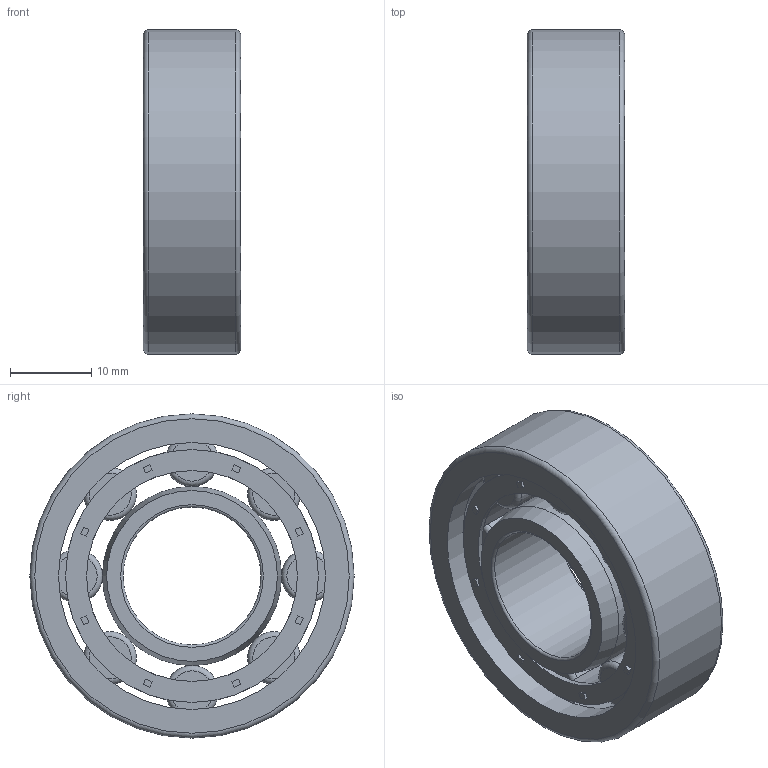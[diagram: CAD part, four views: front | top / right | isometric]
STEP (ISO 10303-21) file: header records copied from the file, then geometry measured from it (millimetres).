
FILE_DESCRIPTION(/* description */ (''),/* implementation_level */ '2;1');
FILE_NAME(/* name */ 'D:\BASISTA_PLOCHA\PARAMETRICKE PRE STP\STEP-PRE BELESTAKA\NU\NU203E.stp',/* time_stamp */ '2020-02-18T10:00:15+01:00',/* author */ ('OUBASISTA'),/* organization */ (''),/* preprocessor_version */ 'ST-DEVELOPER v17.2',/* originating_system */ 'Autodesk Inventor 2019',/* authorisation */ '');
FILE_SCHEMA (('AUTOMOTIVE_DESIGN { 1 0 10303 214 3 1 1 }'));
Length unit declared in the file: millimetre
Products named in the file (7): NU203E; NU203E-02; NU203E-roller; NU203E-01; NU203E---E; NU203E--cage01; NU203E--cage02
Assembly tree (14 placements, depth 3):
  NU203E
    NU203E-02
    NU203E-roller  x8
    NU203E-01
    NU203E---E
      NU203E--cage01
      NU203E--cage02  x2
Bounding box: 12 x 40 x 40 mm (x, y, z)
Volume: 8577.5 mm3; surface area: 9272.7 mm2
Topology: 20 solids, 20 shells, 242 faces, 592 edges, 424 vertices
Faces by surface type: plane 138, cylinder 82, torus 20, cone 2
Full cylindrical faces by diameter (mm): 0.65 x32, 6.5 x8, 17 x1, 22.1 x1, 26 x2, 31.2 x2, 32.933 x2, 35.1 x1, 40 x1
Entity records: 6163 total; most frequent: DIRECTION 1107, CARTESIAN_POINT 1013, ORIENTED_EDGE 934, EDGE_CURVE 467, AXIS2_PLACEMENT_3D 424, VERTEX_POINT 330, LINE 259, VECTOR 259
